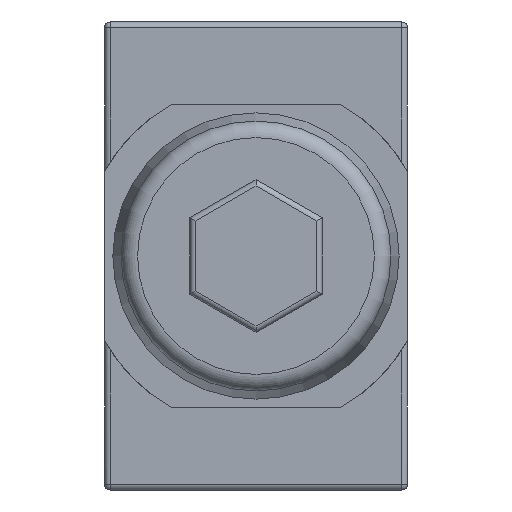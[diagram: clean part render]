
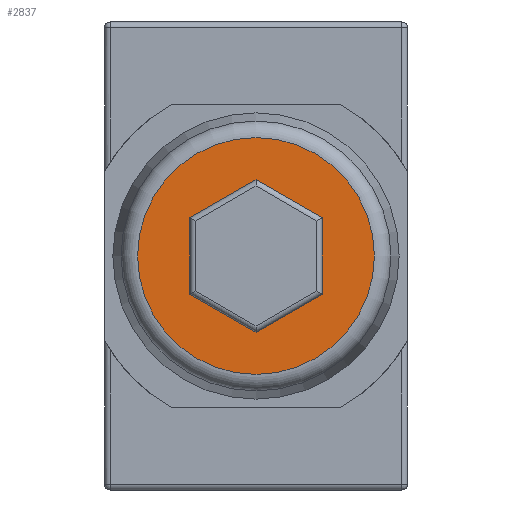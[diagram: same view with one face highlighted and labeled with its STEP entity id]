
A CAD part, front view. The second image highlights one B-rep face of the part: STEP entity #2837.
In plain terms, the highlighted planar face has unit normal (0, -1, 0).
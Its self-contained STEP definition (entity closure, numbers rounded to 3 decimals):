
#208=FACE_BOUND('',#423,.T.);
#238=FACE_OUTER_BOUND('',#422,.T.);
#422=EDGE_LOOP('',(#2010));
#423=EDGE_LOOP('',(#2011,#2012,#2013,#2014,#2015,#2016));
#627=LINE('',#4584,#851);
#628=LINE('',#4586,#852);
#629=LINE('',#4588,#853);
#630=LINE('',#4590,#854);
#631=LINE('',#4592,#855);
#632=LINE('',#4593,#856);
#851=VECTOR('',#3530,1000.);
#852=VECTOR('',#3531,1000.);
#853=VECTOR('',#3532,1000.);
#854=VECTOR('',#3533,1000.);
#855=VECTOR('',#3534,1000.);
#856=VECTOR('',#3535,1000.);
#1083=CIRCLE('',#3088,21.5);
#1265=VERTEX_POINT('',#4580);
#1266=VERTEX_POINT('',#4582);
#1267=VERTEX_POINT('',#4583);
#1268=VERTEX_POINT('',#4585);
#1269=VERTEX_POINT('',#4587);
#1270=VERTEX_POINT('',#4589);
#1271=VERTEX_POINT('',#4591);
#1552=EDGE_CURVE('',#1265,#1265,#1083,.T.);
#1553=EDGE_CURVE('',#1266,#1267,#627,.T.);
#1554=EDGE_CURVE('',#1268,#1266,#628,.T.);
#1555=EDGE_CURVE('',#1269,#1268,#629,.T.);
#1556=EDGE_CURVE('',#1270,#1269,#630,.T.);
#1557=EDGE_CURVE('',#1271,#1270,#631,.T.);
#1558=EDGE_CURVE('',#1267,#1271,#632,.T.);
#2010=ORIENTED_EDGE('',*,*,#1552,.T.);
#2011=ORIENTED_EDGE('',*,*,#1553,.F.);
#2012=ORIENTED_EDGE('',*,*,#1554,.F.);
#2013=ORIENTED_EDGE('',*,*,#1555,.F.);
#2014=ORIENTED_EDGE('',*,*,#1556,.F.);
#2015=ORIENTED_EDGE('',*,*,#1557,.F.);
#2016=ORIENTED_EDGE('',*,*,#1558,.F.);
#2750=PLANE('',#3087);
#2837=ADVANCED_FACE('',(#238,#208),#2750,.F.);
#3087=AXIS2_PLACEMENT_3D('',#4579,#3526,#3527);
#3088=AXIS2_PLACEMENT_3D('',#4581,#3528,#3529);
#3526=DIRECTION('center_axis',(0.,1.,0.));
#3527=DIRECTION('ref_axis',(0.,0.,1.));
#3528=DIRECTION('center_axis',(0.,-1.,0.));
#3529=DIRECTION('ref_axis',(0.,0.,-1.));
#3530=DIRECTION('',(-0.866,0.,0.5));
#3531=DIRECTION('',(0.,0.,1.));
#3532=DIRECTION('',(0.866,0.,0.5));
#3533=DIRECTION('',(0.866,0.,-0.5));
#3534=DIRECTION('',(0.,0.,-1.));
#3535=DIRECTION('',(-0.866,0.,-0.5));
#4579=CARTESIAN_POINT('Origin',(27.5,-130.,-64.));
#4580=CARTESIAN_POINT('',(27.5,-130.,-21.));
#4581=CARTESIAN_POINT('Origin',(27.5,-130.,-42.5));
#4582=CARTESIAN_POINT('',(39.5,-130.,-35.572));
#4583=CARTESIAN_POINT('',(27.5,-130.,-28.644));
#4584=CARTESIAN_POINT('',(39.5,-130.,-35.572));
#4585=CARTESIAN_POINT('',(39.5,-130.,-49.428));
#4586=CARTESIAN_POINT('',(39.5,-130.,-49.428));
#4587=CARTESIAN_POINT('',(27.5,-130.,-56.356));
#4588=CARTESIAN_POINT('',(27.5,-130.,-56.356));
#4589=CARTESIAN_POINT('',(15.5,-130.,-49.428));
#4590=CARTESIAN_POINT('',(15.5,-130.,-49.428));
#4591=CARTESIAN_POINT('',(15.5,-130.,-35.572));
#4592=CARTESIAN_POINT('',(15.5,-130.,-35.572));
#4593=CARTESIAN_POINT('',(27.5,-130.,-28.644));
